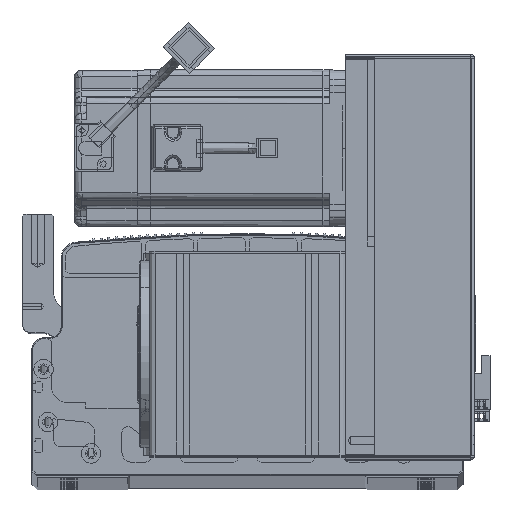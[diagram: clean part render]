
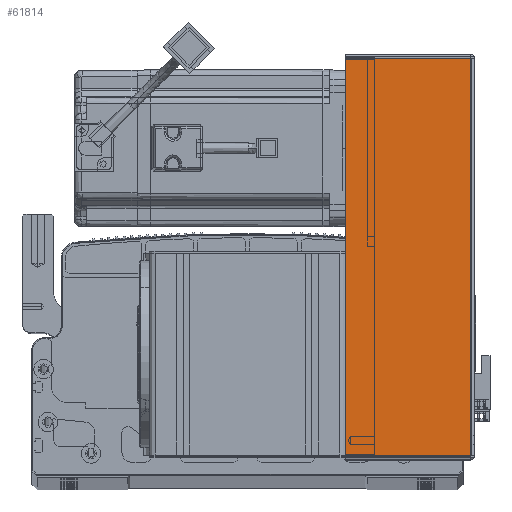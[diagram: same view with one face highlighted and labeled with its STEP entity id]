
A CAD part, top view. The second image highlights one B-rep face of the part: STEP entity #61814.
In plain terms, the highlighted planar face has unit normal (0, 0, 1) as drawn and (0, -1, 0) by its records, which use the part's own axes.
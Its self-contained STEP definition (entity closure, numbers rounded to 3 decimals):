
#427 = CARTESIAN_POINT ( 'NONE',  ( 64.5, -1.5, -0.707 ) ) ;
#562 = DIRECTION ( 'NONE',  ( 0., 1., 0. ) ) ;
#3993 = ORIENTED_EDGE ( 'NONE', *, *, #38676, .F. ) ;
#10608 = ORIENTED_EDGE ( 'NONE', *, *, #11494, .F. ) ;
#11494 = EDGE_CURVE ( 'NONE', #67082, #46448, #97867, .T. ) ;
#12633 = VECTOR ( 'NONE', #31060, 1000. ) ;
#16720 = VERTEX_POINT ( 'NONE', #78850 ) ;
#18204 = CARTESIAN_POINT ( 'NONE',  ( 0.737, -1.5, -0.707 ) ) ;
#24165 = DIRECTION ( 'NONE',  ( 1., 0., 0. ) ) ;
#24578 = VECTOR ( 'NONE', #85394, 1000. ) ;
#31060 = DIRECTION ( 'NONE',  ( 0., 0., 1. ) ) ;
#33640 = EDGE_CURVE ( 'NONE', #16720, #103329, #79318, .T. ) ;
#38676 = EDGE_CURVE ( 'NONE', #16720, #67082, #60766, .T. ) ;
#39509 = FACE_OUTER_BOUND ( 'NONE', #63523, .T. ) ;
#46448 = VERTEX_POINT ( 'NONE', #427 ) ;
#46696 = EDGE_CURVE ( 'NONE', #103329, #46448, #93548, .T. ) ;
#47452 = ORIENTED_EDGE ( 'NONE', *, *, #46696, .T. ) ;
#49338 = CARTESIAN_POINT ( 'NONE',  ( 0., -1.5, 0. ) ) ;
#49496 = ORIENTED_EDGE ( 'NONE', *, *, #33640, .T. ) ;
#49695 = PLANE ( 'NONE',  #60523 ) ;
#52780 = CARTESIAN_POINT ( 'NONE',  ( 64.5, -1.5, -203.293 ) ) ;
#59077 = CARTESIAN_POINT ( 'NONE',  ( 0.737, -1.5, 0. ) ) ;
#60523 = AXIS2_PLACEMENT_3D ( 'NONE', #49338, #562, #82599 ) ;
#60766 = LINE ( 'NONE', #59077, #88555 ) ;
#61814 = ADVANCED_FACE ( 'NONE', ( #39509 ), #49695, .F. ) ;
#63523 = EDGE_LOOP ( 'NONE', ( #3993, #49496, #47452, #10608 ) ) ;
#67082 = VERTEX_POINT ( 'NONE', #18204 ) ;
#70990 = CARTESIAN_POINT ( 'NONE',  ( 64.5, -1.5, 0. ) ) ;
#74670 = DIRECTION ( 'NONE',  ( 0., 0., 1. ) ) ;
#77246 = CARTESIAN_POINT ( 'NONE',  ( 0., -1.5, -0.707 ) ) ;
#78850 = CARTESIAN_POINT ( 'NONE',  ( 0.737, -1.5, -203.293 ) ) ;
#79318 = LINE ( 'NONE', #88473, #90672 ) ;
#82599 = DIRECTION ( 'NONE',  ( -1., 0., 0. ) ) ;
#85394 = DIRECTION ( 'NONE',  ( 1., 0., 0. ) ) ;
#88473 = CARTESIAN_POINT ( 'NONE',  ( 0., -1.5, -203.293 ) ) ;
#88555 = VECTOR ( 'NONE', #74670, 1000. ) ;
#90672 = VECTOR ( 'NONE', #24165, 1000. ) ;
#93548 = LINE ( 'NONE', #70990, #12633 ) ;
#97867 = LINE ( 'NONE', #77246, #24578 ) ;
#103329 = VERTEX_POINT ( 'NONE', #52780 ) ;
